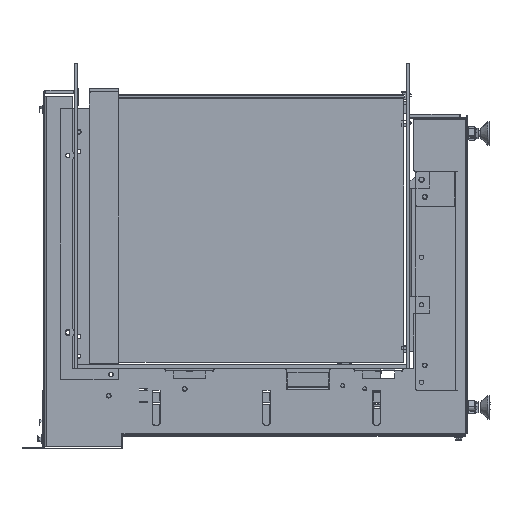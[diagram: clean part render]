
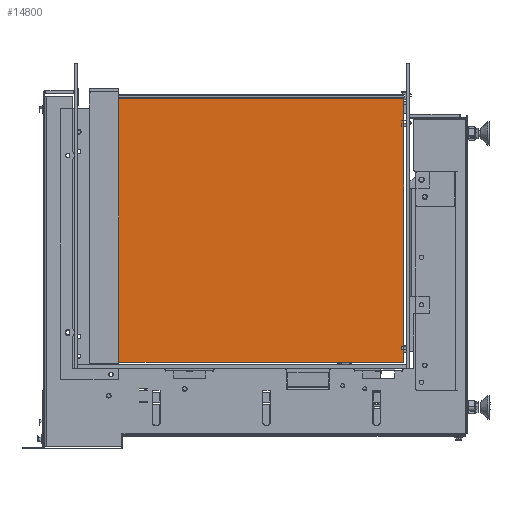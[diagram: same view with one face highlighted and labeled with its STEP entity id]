
A CAD part, left-side view. The second image highlights one B-rep face of the part: STEP entity #14800.
In plain terms, the highlighted planar face has unit normal (-1, 0, 0).
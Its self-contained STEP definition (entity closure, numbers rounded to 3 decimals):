
#1931 = VERTEX_POINT ( 'NONE', #34613 ) ;
#2805 = ORIENTED_EDGE ( 'NONE', *, *, #7421, .T. ) ;
#3020 = ORIENTED_EDGE ( 'NONE', *, *, #27968, .T. ) ;
#5272 = CARTESIAN_POINT ( 'NONE',  ( 1170.198, 2637.418, 3348.964 ) ) ;
#5330 = EDGE_LOOP ( 'NONE', ( #2805, #3020, #38155, #34004 ) ) ;
#6541 = LINE ( 'NONE', #25448, #10409 ) ;
#6748 = DIRECTION ( 'NONE',  ( 0., 1., 0. ) ) ;
#7421 = EDGE_CURVE ( 'NONE', #30891, #1931, #20617, .T. ) ;
#10409 = VECTOR ( 'NONE', #6748, 1000. ) ;
#10798 = DIRECTION ( 'NONE',  ( 1., 0., 0. ) ) ;
#14440 = DIRECTION ( 'NONE',  ( 0., 0., -1. ) ) ;
#14800 = ADVANCED_FACE ( 'NONE', ( #23660 ), #29489, .F. ) ;
#20196 = LINE ( 'NONE', #35984, #36812 ) ;
#20542 = CARTESIAN_POINT ( 'NONE',  ( 1170.198, 2638.418, 3341.964 ) ) ;
#20617 = LINE ( 'NONE', #39098, #29101 ) ;
#23081 = VERTEX_POINT ( 'NONE', #40814 ) ;
#23460 = DIRECTION ( 'NONE',  ( 0., 0., -1. ) ) ;
#23660 = FACE_OUTER_BOUND ( 'NONE', #5330, .T. ) ;
#25448 = CARTESIAN_POINT ( 'NONE',  ( 1170.198, 2638.418, 3684.964 ) ) ;
#25467 = VECTOR ( 'NONE', #14440, 1000. ) ;
#26395 = EDGE_CURVE ( 'NONE', #33124, #30891, #36233, .T. ) ;
#27968 = EDGE_CURVE ( 'NONE', #1931, #23081, #20196, .T. ) ;
#29101 = VECTOR ( 'NONE', #39306, 1000. ) ;
#29489 = PLANE ( 'NONE',  #29968 ) ;
#29968 = AXIS2_PLACEMENT_3D ( 'NONE', #20542, #10798, #23460 ) ;
#30632 = EDGE_CURVE ( 'NONE', #23081, #33124, #6541, .T. ) ;
#30891 = VERTEX_POINT ( 'NONE', #5272 ) ;
#32912 = CARTESIAN_POINT ( 'NONE',  ( 1170.198, 2637.418, 3341.964 ) ) ;
#33124 = VERTEX_POINT ( 'NONE', #36481 ) ;
#34004 = ORIENTED_EDGE ( 'NONE', *, *, #26395, .T. ) ;
#34613 = CARTESIAN_POINT ( 'NONE',  ( 1170.198, 2269.418, 3348.964 ) ) ;
#35984 = CARTESIAN_POINT ( 'NONE',  ( 1170.198, 2269.418, 3341.964 ) ) ;
#36233 = LINE ( 'NONE', #32912, #25467 ) ;
#36481 = CARTESIAN_POINT ( 'NONE',  ( 1170.198, 2637.418, 3684.964 ) ) ;
#36812 = VECTOR ( 'NONE', #39712, 1000. ) ;
#38155 = ORIENTED_EDGE ( 'NONE', *, *, #30632, .T. ) ;
#39098 = CARTESIAN_POINT ( 'NONE',  ( 1170.198, 2638.418, 3348.964 ) ) ;
#39306 = DIRECTION ( 'NONE',  ( 0., -1., 0. ) ) ;
#39712 = DIRECTION ( 'NONE',  ( 0., 0., 1. ) ) ;
#40814 = CARTESIAN_POINT ( 'NONE',  ( 1170.198, 2269.418, 3684.964 ) ) ;
